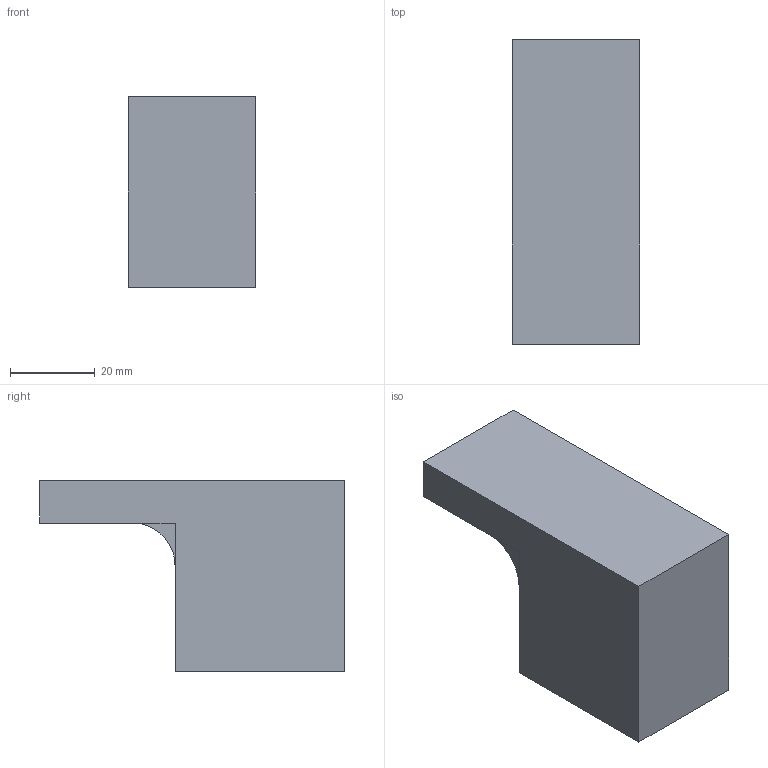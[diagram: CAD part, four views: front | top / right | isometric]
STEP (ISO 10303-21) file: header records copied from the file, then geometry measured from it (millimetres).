
FILE_DESCRIPTION(('FreeCAD Model'),'2;1');
FILE_NAME('Open CASCADE Shape Model','2024-08-10T18:57:43',('Author'),( ''),'Open CASCADE STEP processor 7.6','FreeCAD','Unknown');
FILE_SCHEMA(('AUTOMOTIVE_DESIGN { 1 0 10303 214 1 1 1 1 }'));
Length unit declared in the file: millimetre
Products named in the file (3): TopLevelAssembly; Wyciąganie001; Wyciąganie002
Assembly tree (2 placements, depth 2):
  TopLevelAssembly
    Wyciąganie001
    Wyciąganie002
Bounding box: 30 x 72 x 45 mm (x, y, z)
Surface area: 22434.2 mm2
Topology: 2 solids, 2 shells, 17 faces, 39 edges, 26 vertices
Faces by surface type: plane 16, cylinder 1
Entity records: 541 total; most frequent: CARTESIAN_POINT 85, DIRECTION 81, ORIENTED_EDGE 78, EDGE_CURVE 39, LINE 37, VECTOR 37, VERTEX_POINT 26, AXIS2_PLACEMENT_3D 22
